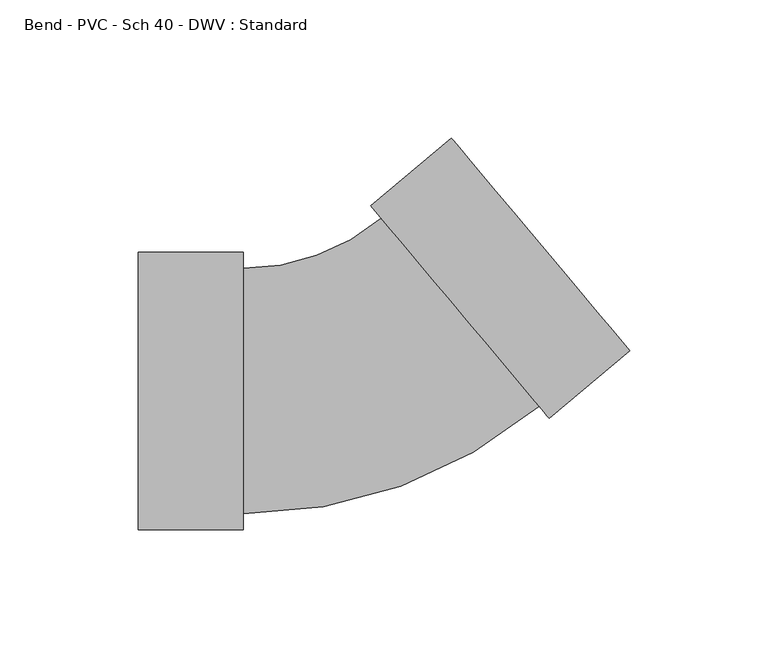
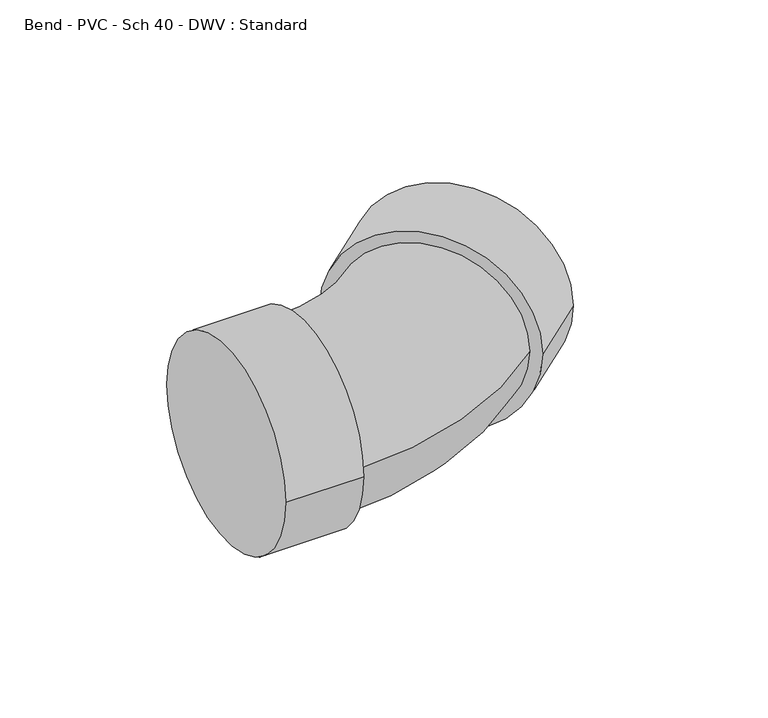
"""IFC4 building model written with IfcOpenShell, lengths in millimetres: pipe fitting geometry, Bend - PVC - Sch 40 - DWV : Standard."""

from ifc_helpers import new_model, si_unit, point, frame, origin, place, context, project, spatial, circle_curve, ellipse_curve, trimmed, source, transform, mapped, element, save
from ifc_brep_helpers import plane_surface, cylinder_surface, revolved_surface, advanced_brep


def bend_pvc_sch_40_dwv_standard_f476c566(model_context):
    return source(origin(), model_context, "Body", "AdvancedBrep", [
        advanced_brep(
        [(-82.55, -50.2666, 0.0), (-82.55, 50.2666, 0.0), (-44.45, -50.2666, 0.0), (-44.45, 50.2666, 0.0), (-44.45, -44.45, 0.0), (-44.45, 44.45, 0.0), (5.4492786, 62.6251576, 0.0), (62.6251576, -5.4492786, 0.0), (66.3660937, -9.9032917, 0.0), (1.7083425, 67.0791707, 0.0), (95.540852, 14.6006564, 0.0), (30.8831009, 91.5831188, 0.0)],
        [
            (0, 1, circle_curve(frame((-82.55, 0.0, 0.0), z_axis=(-1.0, 0.0, 0.0), x_axis=(0.0, 1.0, 0.0)), 50.2666)),
            (1, 0, circle_curve(frame((-82.55, 0.0, 0.0), z_axis=(-1.0, 0.0, 0.0), x_axis=(0.0, 1.0, 0.0)), 50.2666)),
            (2, 3, circle_curve(frame((-44.45, 0.0, 0.0), z_axis=(1.0, 0.0, 0.0), x_axis=(0.0, 1.0, 0.0)), 50.2666)),
            (3, 2, circle_curve(frame((-44.45, 0.0, 0.0), z_axis=(1.0, 0.0, 0.0), x_axis=(0.0, 1.0, 0.0)), 50.2666)),
            (4, 5, circle_curve(frame((-44.45, 0.0, 0.0), z_axis=(-1.0, 0.0, 0.0), x_axis=(0.0, 1.0, 0.0)), 44.45)),
            (5, 4, circle_curve(frame((-44.45, 0.0, 0.0), z_axis=(-1.0, 0.0, 0.0), x_axis=(0.0, 1.0, 0.0)), 44.45)),
            (0, 2),
            (3, 1),
            (6, 5, circle_curve(frame((-44.45, 122.0359672, 0.0), z_axis=(0.0, 0.0, -1.0), x_axis=(0.0, -1.0, 0.0)), 77.5859672)),
            (4, 7, circle_curve(frame((-44.45, 122.0359672, 0.0), z_axis=(0.0, 0.0, 1.0), x_axis=(0.0, -1.0, 0.0)), 166.4859672)),
            (7, 6, circle_curve(frame((34.0372181, 28.5879395, 0.0), z_axis=(-0.7657416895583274, -0.6431482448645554, 0.0), x_axis=(-0.6431482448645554, 0.7657416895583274, 0.0)), 44.45)),
            (6, 7, circle_curve(frame((34.0372181, 28.5879395, 0.0), z_axis=(-0.7657416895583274, -0.6431482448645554, 0.0), x_axis=(-0.6431482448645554, 0.7657416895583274, 0.0)), 44.45)),
            (8, 9, circle_curve(frame((34.0372181, 28.5879395, 0.0), z_axis=(-0.765741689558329, -0.6431482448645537, 0.0), x_axis=(-0.6431482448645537, 0.765741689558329, 0.0)), 50.2666)),
            (9, 8, circle_curve(frame((34.0372181, 28.5879395, 0.0), z_axis=(-0.765741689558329, -0.6431482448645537, 0.0), x_axis=(-0.6431482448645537, 0.765741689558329, 0.0)), 50.2666)),
            (10, 11, circle_curve(frame((63.2119765, 53.0918876, 0.0), z_axis=(0.765741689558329, 0.6431482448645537, 0.0), x_axis=(-0.6431482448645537, 0.765741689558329, 0.0)), 50.2666)),
            (11, 10, circle_curve(frame((63.2119765, 53.0918876, 0.0), z_axis=(0.765741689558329, 0.6431482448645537, 0.0), x_axis=(-0.6431482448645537, 0.765741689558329, 0.0)), 50.2666)),
            (8, 10),
            (11, 9),
        ],
        [
            plane_surface(frame((-82.55, 0.0, 0.0), z_axis=(-1.0, 0.0, 0.0), x_axis=(0.0, 0.0, 1.0))),
            plane_surface(frame((-44.45, 0.0, 0.0), z_axis=(1.0, 0.0, 0.0), x_axis=(0.0, 0.0, 1.0))),
            cylinder_surface(frame((-82.55, 0.0, 0.0), z_axis=(-1.0, 0.0, 0.0), x_axis=(0.0, 1.0, 0.0)), 50.2666),
            revolved_surface(trimmed(ellipse_curve(frame((-44.45, 0.0, 0.0), z_axis=(-1.0, 0.0, 0.0), x_axis=(0.0, 1.0, 0.0)), 44.45, 44.45), [point((-44.45, -44.45, 0.0))], [point((-44.45, 44.45, 0.0))], True, "CARTESIAN"), (-44.45, 122.0359672, 0.0), (0.0, 0.0, 1.0)),
            revolved_surface(trimmed(ellipse_curve(frame((-44.45, 0.0, 0.0), z_axis=(-1.0, 0.0, 0.0), x_axis=(0.0, 1.0, 0.0)), 44.45, 44.45), [point((-44.45, 44.45, 0.0))], [point((-44.45, -44.45, 0.0))], True, "CARTESIAN"), (-44.45, 122.0359672, 0.0), (0.0, 0.0, 1.0)),
            plane_surface(frame((34.0372181, 28.5879395, 0.0), z_axis=(-0.765741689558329, -0.6431482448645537, 0.0), x_axis=(0.0, 0.0, 1.0))),
            plane_surface(frame((63.2119765, 53.0918876, 0.0), z_axis=(0.765741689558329, 0.6431482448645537, 0.0), x_axis=(0.0, 0.0, 1.0))),
            cylinder_surface(frame((34.0372181, 28.5879395, 0.0), z_axis=(-0.765741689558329, -0.6431482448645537, 0.0), x_axis=(-0.6431482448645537, 0.765741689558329, 0.0)), 50.2666),
        ],
        [
            (0, [[1, 2]]),
            (1, [[3, 4], [5, 6]]),
            (2, [[-1, 7, -4, 8]]),
            (2, [[-2, -8, -3, -7]]),
            (3, [[9, -5, 10, 11]]),
            (4, [[-9, 12, -10, -6]]),
            (5, [[13, 14], [-11, -12]]),
            (6, [[15, 16]]),
            (7, [[-13, 17, -16, 18]]),
            (7, [[-14, -18, -15, -17]]),
        ],
    ),
    ])


if __name__ == "__main__":
    model = new_model("IFC4")
    model_context = context("Model", 3, world=origin())
    ifc_project = project(units=[si_unit("LENGTHUNIT", "METRE", prefix="MILLI")], contexts=[model_context])
    site = spatial("IfcSite", under=ifc_project)
    building = spatial("IfcBuilding", under=site)
    placement = place(None, origin())
    bend_pvc_sch_40_dwv_standard_shape = bend_pvc_sch_40_dwv_standard_f476c566(model_context)
    element("IfcPipeFitting", 1, ObjectType="Bend - PVC - Sch 40 - DWV : Standard", at=placement, inside=building, context=model_context, shape_type="MappedRepresentation", body=[
        mapped(bend_pvc_sch_40_dwv_standard_shape, transform((0.0, 0.0, 0.0), x_axis=(1.0, 0.0, 0.0), y_axis=(0.0, 1.0, 0.0), z_axis=(0.0, 0.0, 1.0))),
    ])
    save(model, "model.ifc")
